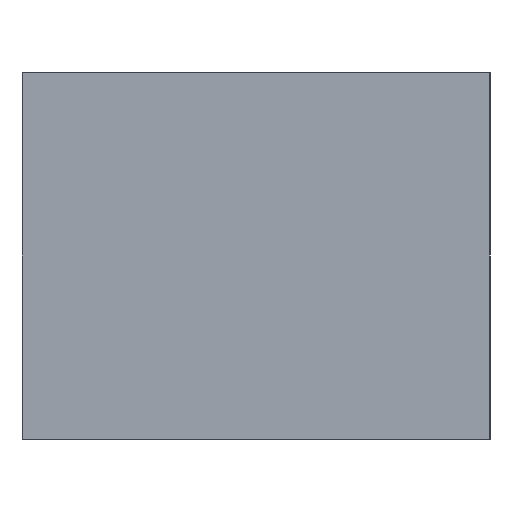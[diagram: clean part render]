
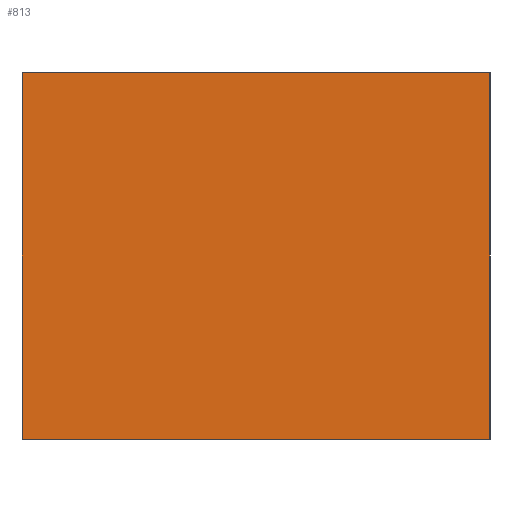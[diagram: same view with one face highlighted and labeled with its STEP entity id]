
A CAD part, left-side view. The second image highlights one B-rep face of the part: STEP entity #813.
In plain terms, the highlighted planar face has unit normal (-1, 0, 0).
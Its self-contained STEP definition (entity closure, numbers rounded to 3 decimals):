
#679=CARTESIAN_POINT('',(-1.753,-1.346,0.0));
#678=VERTEX_POINT('',#679);
#697=CARTESIAN_POINT('',(-1.753,-1.346,2.108));
#696=VERTEX_POINT('',#697);
#705=EDGE_CURVE('',#678,#696,#710,.T.);
#710=LINE('',#679,#712);
#712=VECTOR('',#713,2.108);
#713=DIRECTION('',(0.0,0.0,1.0));
#775=CARTESIAN_POINT('',(-1.753,1.346,0.0));
#774=VERTEX_POINT('',#775);
#785=CARTESIAN_POINT('',(-1.753,1.346,2.108));
#784=VERTEX_POINT('',#785);
#783=EDGE_CURVE('',#784,#774,#788,.T.);
#788=LINE('',#785,#790);
#790=VECTOR('',#791,2.108);
#791=DIRECTION('',(0.0,0.0,-1.0));
#813=ADVANCED_FACE('',(#819),#814,.T.);
#814=PLANE('',#815);
#815=AXIS2_PLACEMENT_3D('',#816,#817,#818);
#816=CARTESIAN_POINT('',(-1.753,1.346,0.0));
#817=DIRECTION('',(-1.0,0.0,0.0));
#818=DIRECTION('',(0.,0.,1.));
#819=FACE_OUTER_BOUND('',#820,.T.);
#820=EDGE_LOOP('',(#821,#831,#841,#851));
#822=EDGE_CURVE('',#678,#774,#827,.T.);
#827=LINE('',#679,#829);
#829=VECTOR('',#830,2.692);
#830=DIRECTION('',(0.0,1.0,0.0));
#821=ORIENTED_EDGE('',*,*,#822,.F.);
#831=ORIENTED_EDGE('',*,*,#705,.T.);
#842=EDGE_CURVE('',#784,#696,#847,.T.);
#847=LINE('',#785,#849);
#849=VECTOR('',#850,2.692);
#850=DIRECTION('',(0.0,-1.0,0.0));
#841=ORIENTED_EDGE('',*,*,#842,.F.);
#851=ORIENTED_EDGE('',*,*,#783,.T.);
